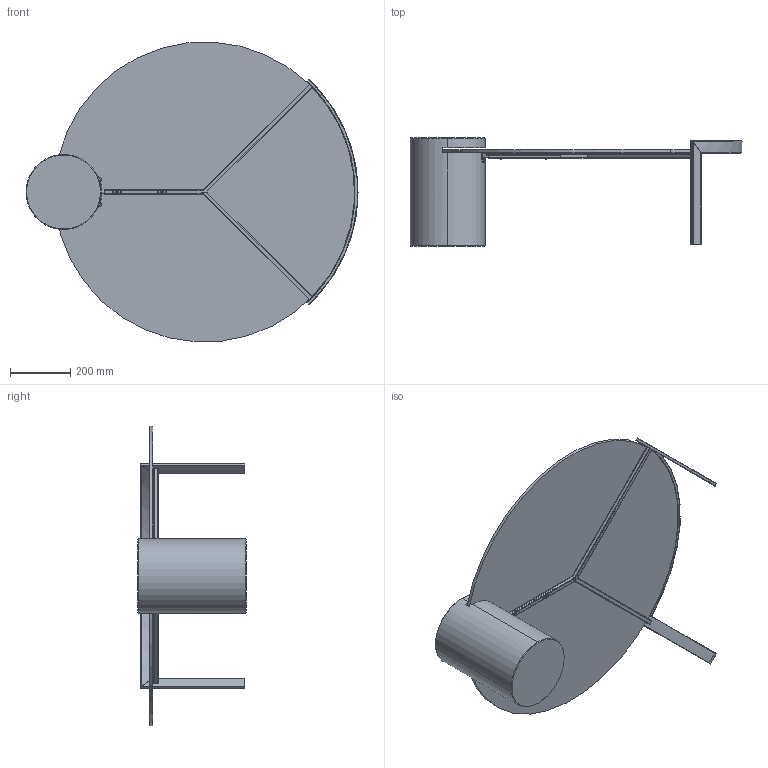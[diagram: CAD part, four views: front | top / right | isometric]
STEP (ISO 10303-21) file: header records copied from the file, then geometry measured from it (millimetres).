
FILE_DESCRIPTION (( 'STEP AP203' ), '1' );
FILE_NAME ('PE03G_Peo Low_d.100x32h_Glass.STEP', '2024-08-06T11:50:46', ( '' ), ( '' ), 'SwSTEP 2.0', 'SolidWorks 2022', '' );
FILE_SCHEMA (( 'CONFIG_CONTROL_DESIGN' ));
Length unit declared in the file: millimetre
Products named in the file (7): PE03G_Peo Low_d.100x32h_Glass; PEO000M01_PEO000M02_PEO000M03_PEO000M04-02-PEO BASE MARMO_Default<A macchina>; PE000000001-00-PEO BASE METALLO_PEO0000001 Gambe tavolo marmo<A macchina>; M6xXXmm_M6x10mm; C1XCRMXX-00-piani Rotondi Cristallo_C03 D.100cm; M8xXXmm_M8x20mm; PEO000000BAR-00-BARRA MONTAGGIO PEO_Default<A macchina>
Assembly tree (8 placements, depth 2):
  PE03G_Peo Low_d.100x32h_Glass
    C1XCRMXX-00-piani Rotondi Cristallo_C03 D.100cm
    PE000000001-00-PEO BASE METALLO_PEO0000001 Gambe tavolo marmo<A macchina>
    PEO000M01_PEO000M02_PEO000M03_PEO000M04-02-PEO BASE MARMO_Default<A macchina>
    PEO000000BAR-00-BARRA MONTAGGIO PEO_Default<A macchina>
    M6xXXmm_M6x10mm  x2
    M8xXXmm_M8x20mm  x2
Bounding box: 1106 x 360 x 998.38 mm (x, y, z)
Volume: 25294956 mm3; surface area: 2469897.3 mm2
Topology: 14 solids, 14 shells, 305 faces, 742 edges, 458 vertices
Faces by surface type: plane 133, cylinder 92, cone 52, torus 24, bspline 4
Entity records: 9175 total; most frequent: CARTESIAN_POINT 2872, ORIENTED_EDGE 1180, DIRECTION 1112, EDGE_CURVE 590, AXIS2_PLACEMENT_3D 418, VERTEX_POINT 378, VECTOR 276, LINE 276
